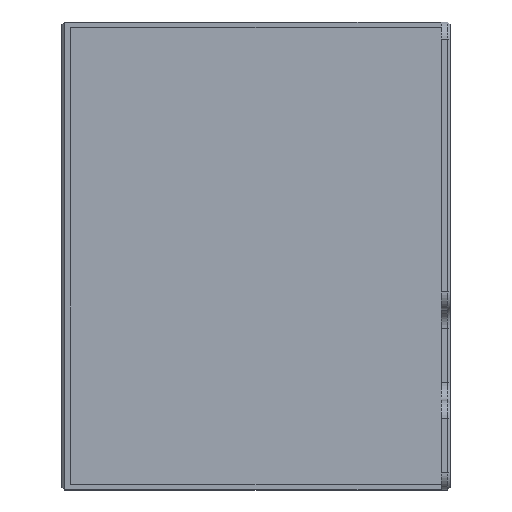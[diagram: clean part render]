
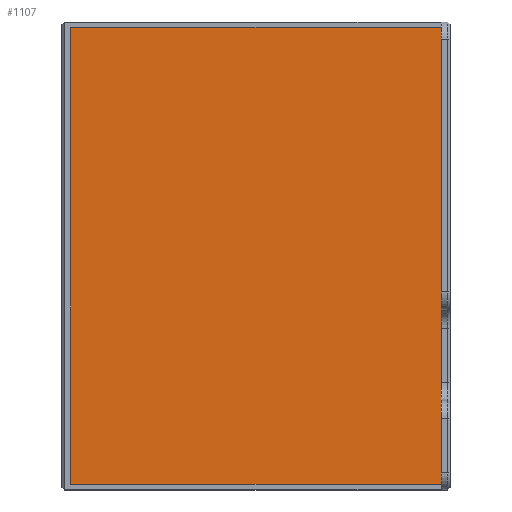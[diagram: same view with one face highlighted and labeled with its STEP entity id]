
A CAD part, top view. The second image highlights one B-rep face of the part: STEP entity #1107.
In plain terms, the highlighted planar face has unit normal (0, 0, 1).
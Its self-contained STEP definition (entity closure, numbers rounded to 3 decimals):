
#53=PLANE('',#1210);
#111=FACE_OUTER_BOUND('',#176,.T.);
#176=EDGE_LOOP('',(#913,#914,#915,#916,#917,#918,#919,#920));
#213=LINE('',#1610,#340);
#282=LINE('',#1782,#409);
#286=LINE('',#1790,#413);
#287=LINE('',#1791,#414);
#288=LINE('',#1793,#415);
#289=LINE('',#1795,#416);
#290=LINE('',#1797,#417);
#291=LINE('',#1798,#418);
#340=VECTOR('',#1278,10.);
#409=VECTOR('',#1451,10.);
#413=VECTOR('',#1457,10.);
#414=VECTOR('',#1458,10.);
#415=VECTOR('',#1459,10.);
#416=VECTOR('',#1460,10.);
#417=VECTOR('',#1461,10.);
#418=VECTOR('',#1462,10.);
#503=VERTEX_POINT('',#1607);
#504=VERTEX_POINT('',#1609);
#554=VERTEX_POINT('',#1780);
#555=VERTEX_POINT('',#1781);
#558=VERTEX_POINT('',#1789);
#559=VERTEX_POINT('',#1792);
#560=VERTEX_POINT('',#1794);
#561=VERTEX_POINT('',#1796);
#600=EDGE_CURVE('',#503,#504,#213,.T.);
#685=EDGE_CURVE('',#554,#555,#282,.T.);
#689=EDGE_CURVE('',#558,#555,#286,.T.);
#690=EDGE_CURVE('',#558,#504,#287,.T.);
#691=EDGE_CURVE('',#503,#559,#288,.T.);
#692=EDGE_CURVE('',#559,#560,#289,.T.);
#693=EDGE_CURVE('',#560,#561,#290,.T.);
#694=EDGE_CURVE('',#561,#554,#291,.T.);
#913=ORIENTED_EDGE('',*,*,#685,.T.);
#914=ORIENTED_EDGE('',*,*,#689,.F.);
#915=ORIENTED_EDGE('',*,*,#690,.T.);
#916=ORIENTED_EDGE('',*,*,#600,.F.);
#917=ORIENTED_EDGE('',*,*,#691,.T.);
#918=ORIENTED_EDGE('',*,*,#692,.T.);
#919=ORIENTED_EDGE('',*,*,#693,.T.);
#920=ORIENTED_EDGE('',*,*,#694,.T.);
#1107=ADVANCED_FACE('',(#111),#53,.T.);
#1210=AXIS2_PLACEMENT_3D('',#1788,#1455,#1456);
#1278=DIRECTION('',(0.,-1.,0.));
#1451=DIRECTION('',(0.707,-0.707,0.));
#1455=DIRECTION('center_axis',(0.,0.,1.));
#1456=DIRECTION('ref_axis',(0.,1.,0.));
#1457=DIRECTION('',(-1.,0.,0.));
#1458=DIRECTION('',(0.707,0.707,0.));
#1459=DIRECTION('',(-0.707,0.707,0.));
#1460=DIRECTION('',(-1.,0.,0.));
#1461=DIRECTION('',(-0.707,-0.707,0.));
#1462=DIRECTION('',(0.,-1.,0.));
#1607=CARTESIAN_POINT('',(-1.5,17.25,46.75));
#1609=CARTESIAN_POINT('',(-1.5,-107.25,46.75));
#1610=CARTESIAN_POINT('',(-1.5,-76.625,46.75));
#1780=CARTESIAN_POINT('',(-106.,-107.25,46.75));
#1781=CARTESIAN_POINT('',(-105.,-108.25,46.75));
#1782=CARTESIAN_POINT('',(-79.375,-133.875,46.75));
#1788=CARTESIAN_POINT('Origin',(-1.5,-108.25,46.75));
#1789=CARTESIAN_POINT('',(-2.5,-108.25,46.75));
#1790=CARTESIAN_POINT('',(-1.5,-108.25,46.75));
#1791=CARTESIAN_POINT('',(-2.,-107.75,46.75));
#1792=CARTESIAN_POINT('',(-2.5,18.25,46.75));
#1793=CARTESIAN_POINT('',(29.625,-13.875,46.75));
#1794=CARTESIAN_POINT('',(-105.,18.25,46.75));
#1795=CARTESIAN_POINT('',(-1.5,18.25,46.75));
#1796=CARTESIAN_POINT('',(-106.,17.25,46.75));
#1797=CARTESIAN_POINT('',(-111.,12.25,46.75));
#1798=CARTESIAN_POINT('',(-106.,-76.625,46.75));
